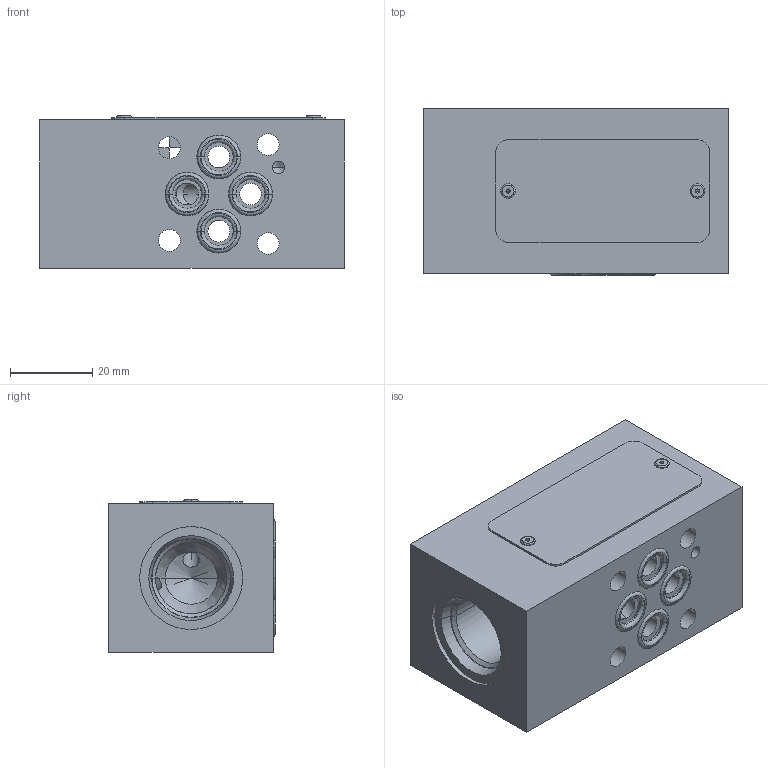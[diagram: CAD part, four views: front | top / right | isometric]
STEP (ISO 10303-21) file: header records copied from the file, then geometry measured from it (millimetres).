
FILE_DESCRIPTION((''),'2;1');
FILE_NAME('30979100_ASM','2023-10-12T',('l.soukupova'),(''),'PRO/ENGINEER BY PARAMETRIC TECHNOLOGY CORPORATION, 2015440','PRO/ENGINEER BY PARAMETRIC TECHNOLOGY CORPORATION, 2015440','');
FILE_SCHEMA(('AUTOMOTIVE_DESIGN { 1 0 10303 214 1 1 1 1 }'));
Length unit declared in the file: millimetre
Products named in the file (8): 30979001; RD_LABEL_25X52_159703; AF_1932_16485; ORIA00750_292673_AF12; ORIA00750_292673_AF13; ORIA00750_292673_AF14; ORIA00750_292673_AF15; 30979100_ASM
Assembly tree (8 placements, depth 2):
  30979100_ASM
    30979001
    RD_LABEL_25X52_159703
    AF_1932_16485  x2
    ORIA00750_292673_AF12
    ORIA00750_292673_AF13
    ORIA00750_292673_AF14
    ORIA00750_292673_AF15
Bounding box: 74 x 40.4 x 37 mm (x, y, z)
Volume: 92540 mm3; surface area: 25610 mm2
Topology: 8 solids, 11 shells, 181 faces, 552 edges, 465 vertices
Faces by surface type: cylinder 88, torus 36, plane 34, cone 23
Entity records: 9332 total; most frequent: CARTESIAN_POINT 1953, DIRECTION 1176, ORIENTED_EDGE 774, AXIS2_PLACEMENT_3D 477, PRESENTATION_STYLE_ASSIGNMENT 419, EDGE_CURVE 393, STYLED_ITEM 349, CURVE_STYLE 312
